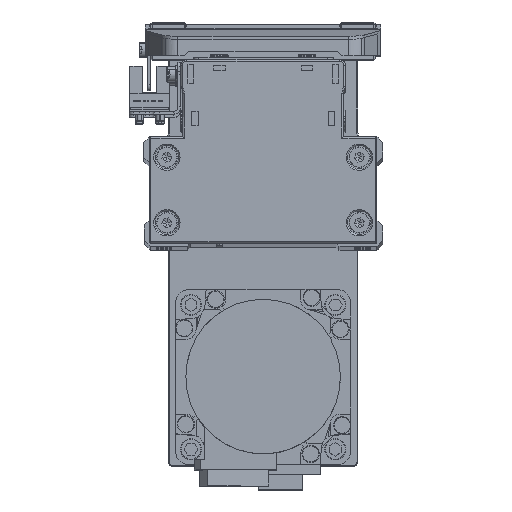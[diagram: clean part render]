
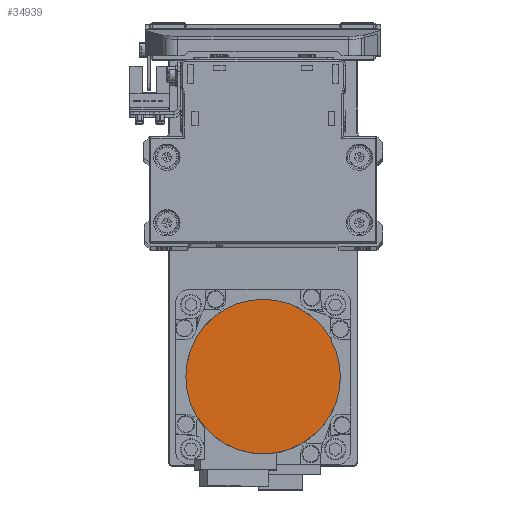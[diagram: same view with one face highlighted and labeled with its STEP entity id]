
A CAD part, top view. The second image highlights one B-rep face of the part: STEP entity #34939.
In plain terms, the highlighted planar face has unit normal (0, 0, 1) as drawn and (0, 0, -1) by its records, which use the part's own axes.
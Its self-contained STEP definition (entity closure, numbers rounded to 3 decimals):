
#1519 = AXIS2_PLACEMENT_3D ( 'NONE', #36846, #8428, #21083 ) ;
#2443 = DIRECTION ( 'NONE',  ( 0., 0., 1. ) ) ;
#7005 = AXIS2_PLACEMENT_3D ( 'NONE', #30867, #2443, #15088 ) ;
#8428 = DIRECTION ( 'NONE',  ( 0., 0., 1. ) ) ;
#9696 = DIRECTION ( 'NONE',  ( 0., 0., 1. ) ) ;
#10872 = CARTESIAN_POINT ( 'NONE',  ( -26.5, 0., -109.7 ) ) ;
#11530 = FACE_OUTER_BOUND ( 'NONE', #18953, .T. ) ;
#13156 = ORIENTED_EDGE ( 'NONE', *, *, #37465, .F. ) ;
#13550 = VERTEX_POINT ( 'NONE', #10872 ) ;
#15088 = DIRECTION ( 'NONE',  ( -1., 0., 0. ) ) ;
#18953 = EDGE_LOOP ( 'NONE', ( #13156, #28199 ) ) ;
#20273 = AXIS2_PLACEMENT_3D ( 'NONE', #38119, #9696, #22360 ) ;
#21083 = DIRECTION ( 'NONE',  ( 1., 0., 0. ) ) ;
#22360 = DIRECTION ( 'NONE',  ( 1., 0., 0. ) ) ;
#24192 = PLANE ( 'NONE',  #1519 ) ;
#24914 = CIRCLE ( 'NONE', #7005, 26.5 ) ;
#28199 = ORIENTED_EDGE ( 'NONE', *, *, #33344, .F. ) ;
#30427 = CARTESIAN_POINT ( 'NONE',  ( 26.5, 0., -109.7 ) ) ;
#30867 = CARTESIAN_POINT ( 'NONE',  ( 0., 0., -109.7 ) ) ;
#33344 = EDGE_CURVE ( 'NONE', #40127, #13550, #38175, .T. ) ;
#34939 = ADVANCED_FACE ( 'NONE', ( #11530 ), #24192, .F. ) ;
#36846 = CARTESIAN_POINT ( 'NONE',  ( 0., 0., -109.7 ) ) ;
#37465 = EDGE_CURVE ( 'NONE', #13550, #40127, #24914, .T. ) ;
#38119 = CARTESIAN_POINT ( 'NONE',  ( 0., 0., -109.7 ) ) ;
#38175 = CIRCLE ( 'NONE', #20273, 26.5 ) ;
#40127 = VERTEX_POINT ( 'NONE', #30427 ) ;
